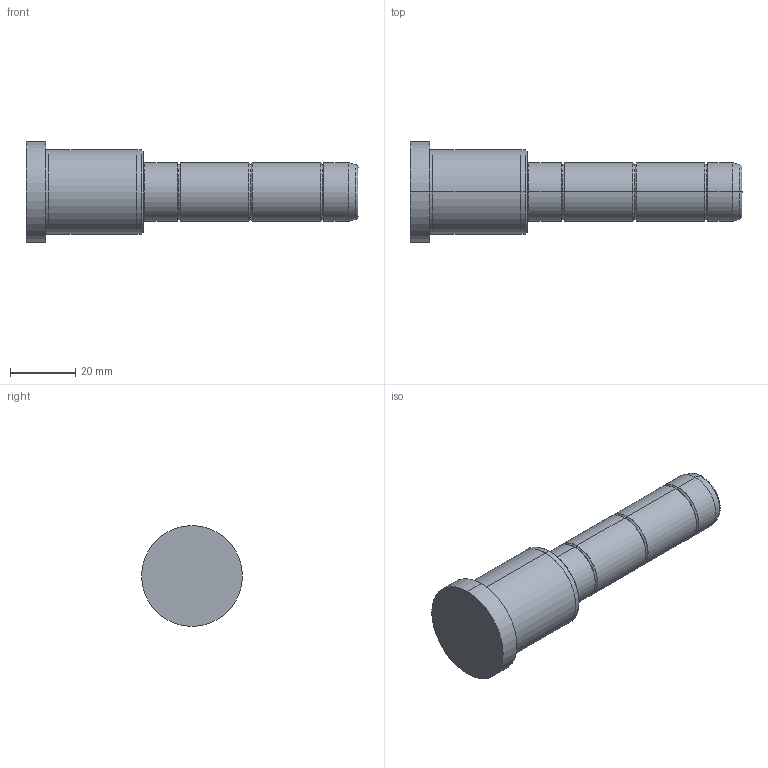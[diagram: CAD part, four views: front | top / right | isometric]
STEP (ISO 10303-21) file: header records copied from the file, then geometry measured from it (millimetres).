
FILE_DESCRIPTION( ( 'STEP AP203' ), '1' );
FILE_NAME( 'C:/Projects/D02 - 18x36x66.step', '2003-01-04T13:22:58', ( ' ' ), ( ' ' ), 'XStep 1.0', ' ', ' ' );
FILE_SCHEMA( ( 'CONFIG_CONTROL_DESIGN' ) );
Length unit declared in the file: metre
Products named in the file (1): 1
Bounding box: 102 x 31 x 31 mm (x, y, z)
Volume: 37129.6 mm3; surface area: 8273.8 mm2
Topology: 1 solids, 1 shells, 42 faces, 82 edges, 46 vertices
Faces by surface type: bspline 22, revolution 20
Entity records: 1325 total; most frequent: CARTESIAN_POINT 517, ORIENTED_EDGE 164, DIRECTION 134, EDGE_CURVE 82, AXIS2_PLACEMENT_3D 47, EDGE_LOOP 46, VERTEX_POINT 46, CIRCLE 46
